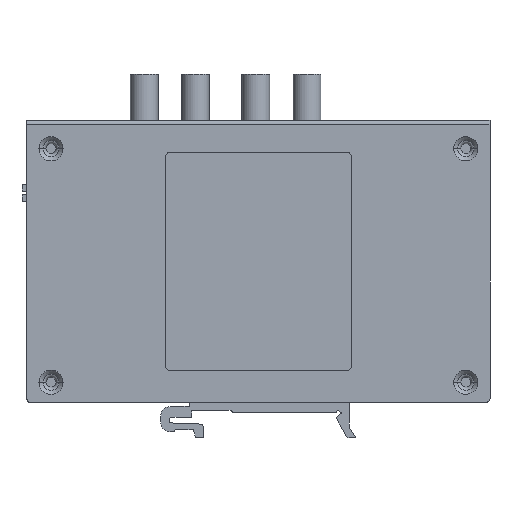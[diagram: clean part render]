
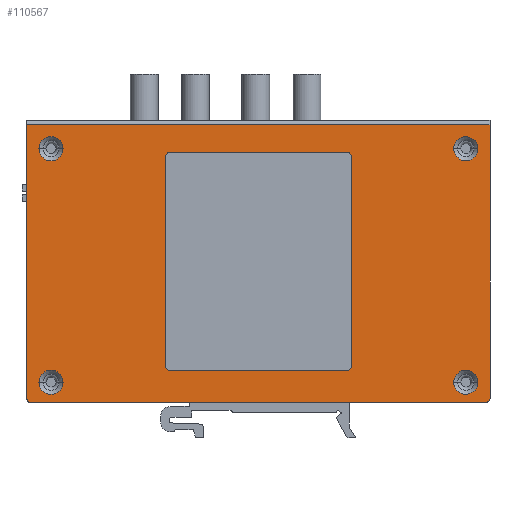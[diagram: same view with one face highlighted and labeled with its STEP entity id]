
A CAD part, left-side view. The second image highlights one B-rep face of the part: STEP entity #110567.
In plain terms, the highlighted planar face has unit normal (-1, 0, 0).
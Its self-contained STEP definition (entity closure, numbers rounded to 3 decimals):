
#108612=DIRECTION('',(0.,-1.,0.));
#108613=VECTOR('',#108612,113.);
#108614=CARTESIAN_POINT('',(-49.15,56.,-34.9));
#108615=LINE('',#108614,#108613);
#108616=CARTESIAN_POINT('',(-49.15,56.,-33.9));
#108617=DIRECTION('',(-1.,0.,0.));
#108618=DIRECTION('',(0.,1.,0.));
#108619=AXIS2_PLACEMENT_3D('',#108616,#108617,#108618);
#108621=DIRECTION('',(0.,0.,-1.));
#108622=VECTOR('',#108621,68.);
#108623=CARTESIAN_POINT('',(-49.15,57.,34.1));
#108624=LINE('',#108623,#108622);
#108625=DIRECTION('',(0.,0.,1.));
#108626=VECTOR('',#108625,68.);
#108627=CARTESIAN_POINT('',(-49.15,-58.,-33.9));
#108628=LINE('',#108627,#108626);
#108629=CARTESIAN_POINT('',(-49.15,-57.,-33.9));
#108630=DIRECTION('',(-1.,0.,0.));
#108631=DIRECTION('',(0.,0.,-1.));
#108632=AXIS2_PLACEMENT_3D('',#108629,#108630,#108631);
#108634=CARTESIAN_POINT('',(-49.15,51.,-29.9));
#108635=DIRECTION('',(1.,0.,0.));
#108636=DIRECTION('',(0.,1.,0.));
#108637=AXIS2_PLACEMENT_3D('',#108634,#108635,#108636);
#108639=CARTESIAN_POINT('',(-49.15,51.,-29.9));
#108640=DIRECTION('',(1.,0.,0.));
#108641=DIRECTION('',(0.,-1.,0.));
#108642=AXIS2_PLACEMENT_3D('',#108639,#108640,#108641);
#108644=CARTESIAN_POINT('',(-49.15,51.,28.1));
#108645=DIRECTION('',(1.,0.,0.));
#108646=DIRECTION('',(0.,1.,0.));
#108647=AXIS2_PLACEMENT_3D('',#108644,#108645,#108646);
#108649=CARTESIAN_POINT('',(-49.15,51.,28.1));
#108650=DIRECTION('',(1.,0.,0.));
#108651=DIRECTION('',(0.,-1.,0.));
#108652=AXIS2_PLACEMENT_3D('',#108649,#108650,#108651);
#108654=CARTESIAN_POINT('',(-49.15,-52.,-29.9));
#108655=DIRECTION('',(1.,0.,0.));
#108656=DIRECTION('',(0.,1.,0.));
#108657=AXIS2_PLACEMENT_3D('',#108654,#108655,#108656);
#108659=CARTESIAN_POINT('',(-49.15,-52.,-29.9));
#108660=DIRECTION('',(1.,0.,0.));
#108661=DIRECTION('',(0.,-1.,0.));
#108662=AXIS2_PLACEMENT_3D('',#108659,#108660,#108661);
#108664=CARTESIAN_POINT('',(-49.15,-52.,28.1));
#108665=DIRECTION('',(1.,0.,0.));
#108666=DIRECTION('',(0.,1.,0.));
#108667=AXIS2_PLACEMENT_3D('',#108664,#108665,#108666);
#108669=CARTESIAN_POINT('',(-49.15,-52.,28.1));
#108670=DIRECTION('',(1.,0.,0.));
#108671=DIRECTION('',(0.,-1.,0.));
#108672=AXIS2_PLACEMENT_3D('',#108669,#108670,#108671);
#108674=CARTESIAN_POINT('',(-49.15,-22.4,26.));
#108675=DIRECTION('',(1.,0.,0.));
#108676=DIRECTION('',(0.,0.,1.));
#108677=AXIS2_PLACEMENT_3D('',#108674,#108675,#108676);
#108679=DIRECTION('',(0.,-1.,0.));
#108680=VECTOR('',#108679,43.8);
#108681=CARTESIAN_POINT('',(-49.15,21.4,27.2));
#108682=LINE('',#108681,#108680);
#108683=CARTESIAN_POINT('',(-49.15,21.4,26.));
#108684=DIRECTION('',(1.,0.,0.));
#108685=DIRECTION('',(0.,1.,0.));
#108686=AXIS2_PLACEMENT_3D('',#108683,#108684,#108685);
#108688=DIRECTION('',(0.,0.,1.));
#108689=VECTOR('',#108688,51.8);
#108690=CARTESIAN_POINT('',(-49.15,22.6,-25.8));
#108691=LINE('',#108690,#108689);
#108692=CARTESIAN_POINT('',(-49.15,21.4,-25.8));
#108693=DIRECTION('',(1.,0.,0.));
#108694=DIRECTION('',(0.,0.,-1.));
#108695=AXIS2_PLACEMENT_3D('',#108692,#108693,#108694);
#108697=DIRECTION('',(0.,1.,0.));
#108698=VECTOR('',#108697,43.8);
#108699=CARTESIAN_POINT('',(-49.15,-22.4,-27.));
#108700=LINE('',#108699,#108698);
#108701=CARTESIAN_POINT('',(-49.15,-22.4,-25.8));
#108702=DIRECTION('',(1.,0.,0.));
#108703=DIRECTION('',(0.,-1.,0.));
#108704=AXIS2_PLACEMENT_3D('',#108701,#108702,#108703);
#108706=DIRECTION('',(0.,0.,-1.));
#108707=VECTOR('',#108706,51.8);
#108708=CARTESIAN_POINT('',(-49.15,-23.6,26.));
#108709=LINE('',#108708,#108707);
#108726=DIRECTION('',(0.,-1.,0.));
#108727=VECTOR('',#108726,115.);
#108728=CARTESIAN_POINT('',(-49.15,57.,34.1));
#108729=LINE('',#108728,#108727);
#109596=CARTESIAN_POINT('',(-49.15,-58.,34.1));
#109597=VERTEX_POINT('',#109596);
#109606=CARTESIAN_POINT('',(-49.15,56.,-34.9));
#109607=CARTESIAN_POINT('',(-49.15,-57.,-34.9));
#109608=VERTEX_POINT('',#109606);
#109609=VERTEX_POINT('',#109607);
#109610=CARTESIAN_POINT('',(-49.15,57.,34.1));
#109611=VERTEX_POINT('',#109610);
#109622=CARTESIAN_POINT('',(-49.15,54.,-29.9));
#109623=CARTESIAN_POINT('',(-49.15,48.,-29.9));
#109624=VERTEX_POINT('',#109622);
#109625=VERTEX_POINT('',#109623);
#109626=CARTESIAN_POINT('',(-49.15,-58.,-33.9));
#109627=VERTEX_POINT('',#109626);
#109628=CARTESIAN_POINT('',(-49.15,57.,-33.9));
#109629=VERTEX_POINT('',#109628);
#109646=CARTESIAN_POINT('',(-49.15,54.,28.1));
#109647=CARTESIAN_POINT('',(-49.15,48.,28.1));
#109648=VERTEX_POINT('',#109646);
#109649=VERTEX_POINT('',#109647);
#109668=CARTESIAN_POINT('',(-49.15,-49.,-29.9));
#109669=CARTESIAN_POINT('',(-49.15,-55.,-29.9));
#109670=VERTEX_POINT('',#109668);
#109671=VERTEX_POINT('',#109669);
#109684=CARTESIAN_POINT('',(-49.15,-49.,28.1));
#109685=CARTESIAN_POINT('',(-49.15,-55.,28.1));
#109686=VERTEX_POINT('',#109684);
#109687=VERTEX_POINT('',#109685);
#109706=CARTESIAN_POINT('',(-49.15,-22.4,27.2));
#109707=CARTESIAN_POINT('',(-49.15,-23.6,26.));
#109708=VERTEX_POINT('',#109706);
#109709=VERTEX_POINT('',#109707);
#109728=CARTESIAN_POINT('',(-49.15,-23.6,-25.8));
#109729=VERTEX_POINT('',#109728);
#109730=CARTESIAN_POINT('',(-49.15,21.4,27.2));
#109731=VERTEX_POINT('',#109730);
#109756=CARTESIAN_POINT('',(-49.15,-22.4,-27.));
#109757=VERTEX_POINT('',#109756);
#109758=CARTESIAN_POINT('',(-49.15,22.6,26.));
#109759=VERTEX_POINT('',#109758);
#109784=CARTESIAN_POINT('',(-49.15,21.4,-27.));
#109785=VERTEX_POINT('',#109784);
#109788=CARTESIAN_POINT('',(-49.15,22.6,-25.8));
#109789=VERTEX_POINT('',#109788);
#110508=CARTESIAN_POINT('',(-49.15,-58.,34.1));
#110509=DIRECTION('',(1.,0.,0.));
#110510=DIRECTION('',(0.,-1.,0.));
#110511=AXIS2_PLACEMENT_3D('',#110508,#110509,#110510);
#110512=PLANE('',#110511);
#110514=ORIENTED_EDGE('',*,*,#110513,.F.);
#110516=ORIENTED_EDGE('',*,*,#110515,.F.);
#110517=ORIENTED_EDGE('',*,*,#110499,.F.);
#110519=ORIENTED_EDGE('',*,*,#110518,.T.);
#110520=ORIENTED_EDGE('',*,*,#110075,.F.);
#110522=ORIENTED_EDGE('',*,*,#110521,.F.);
#110523=EDGE_LOOP('',(#110514,#110516,#110517,#110519,#110520,#110522));
#110524=FACE_OUTER_BOUND('',#110523,.F.);
#110526=ORIENTED_EDGE('',*,*,#110525,.F.);
#110528=ORIENTED_EDGE('',*,*,#110527,.F.);
#110529=EDGE_LOOP('',(#110526,#110528));
#110530=FACE_BOUND('',#110529,.F.);
#110532=ORIENTED_EDGE('',*,*,#110531,.F.);
#110534=ORIENTED_EDGE('',*,*,#110533,.F.);
#110535=EDGE_LOOP('',(#110532,#110534));
#110536=FACE_BOUND('',#110535,.F.);
#110538=ORIENTED_EDGE('',*,*,#110537,.F.);
#110540=ORIENTED_EDGE('',*,*,#110539,.F.);
#110541=EDGE_LOOP('',(#110538,#110540));
#110542=FACE_BOUND('',#110541,.F.);
#110544=ORIENTED_EDGE('',*,*,#110543,.F.);
#110546=ORIENTED_EDGE('',*,*,#110545,.F.);
#110547=EDGE_LOOP('',(#110544,#110546));
#110548=FACE_BOUND('',#110547,.F.);
#110550=ORIENTED_EDGE('',*,*,#110549,.F.);
#110552=ORIENTED_EDGE('',*,*,#110551,.F.);
#110554=ORIENTED_EDGE('',*,*,#110553,.F.);
#110556=ORIENTED_EDGE('',*,*,#110555,.F.);
#110558=ORIENTED_EDGE('',*,*,#110557,.F.);
#110560=ORIENTED_EDGE('',*,*,#110559,.F.);
#110562=ORIENTED_EDGE('',*,*,#110561,.F.);
#110564=ORIENTED_EDGE('',*,*,#110563,.F.);
#110565=EDGE_LOOP('',(#110550,#110552,#110554,#110556,#110558,#110560,#110562,
#110564));
#110566=FACE_BOUND('',#110565,.F.);
#110567=ADVANCED_FACE('',(#110524,#110530,#110536,#110542,#110548,#110566),
#110512,.F.);
#108620=CIRCLE('',#108619,1.);
#108633=CIRCLE('',#108632,1.);
#108638=CIRCLE('',#108637,3.);
#108643=CIRCLE('',#108642,3.);
#108648=CIRCLE('',#108647,3.);
#108653=CIRCLE('',#108652,3.);
#108658=CIRCLE('',#108657,3.);
#108663=CIRCLE('',#108662,3.);
#108668=CIRCLE('',#108667,3.);
#108673=CIRCLE('',#108672,3.);
#108678=CIRCLE('',#108677,1.2);
#108687=CIRCLE('',#108686,1.2);
#108696=CIRCLE('',#108695,1.2);
#108705=CIRCLE('',#108704,1.2);
#110075=EDGE_CURVE('',#109627,#109597,#108628,.T.);
#110499=EDGE_CURVE('',#109611,#109629,#108624,.T.);
#110513=EDGE_CURVE('',#109608,#109609,#108615,.T.);
#110515=EDGE_CURVE('',#109629,#109608,#108620,.T.);
#110518=EDGE_CURVE('',#109611,#109597,#108729,.T.);
#110521=EDGE_CURVE('',#109609,#109627,#108633,.T.);
#110525=EDGE_CURVE('',#109624,#109625,#108638,.T.);
#110527=EDGE_CURVE('',#109625,#109624,#108643,.T.);
#110531=EDGE_CURVE('',#109648,#109649,#108648,.T.);
#110533=EDGE_CURVE('',#109649,#109648,#108653,.T.);
#110537=EDGE_CURVE('',#109670,#109671,#108658,.T.);
#110539=EDGE_CURVE('',#109671,#109670,#108663,.T.);
#110543=EDGE_CURVE('',#109686,#109687,#108668,.T.);
#110545=EDGE_CURVE('',#109687,#109686,#108673,.T.);
#110549=EDGE_CURVE('',#109708,#109709,#108678,.T.);
#110551=EDGE_CURVE('',#109731,#109708,#108682,.T.);
#110553=EDGE_CURVE('',#109759,#109731,#108687,.T.);
#110555=EDGE_CURVE('',#109789,#109759,#108691,.T.);
#110557=EDGE_CURVE('',#109785,#109789,#108696,.T.);
#110559=EDGE_CURVE('',#109757,#109785,#108700,.T.);
#110561=EDGE_CURVE('',#109729,#109757,#108705,.T.);
#110563=EDGE_CURVE('',#109709,#109729,#108709,.T.);
